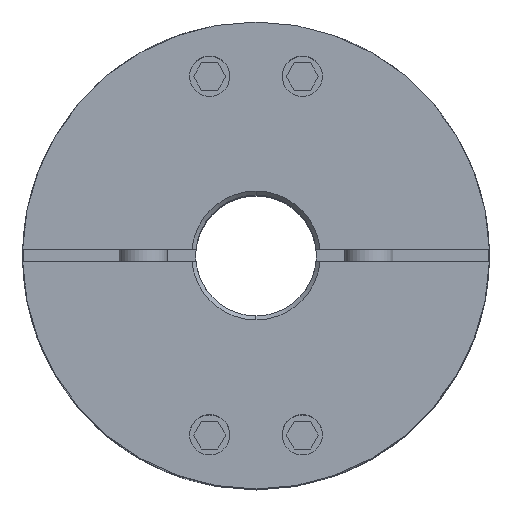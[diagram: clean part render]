
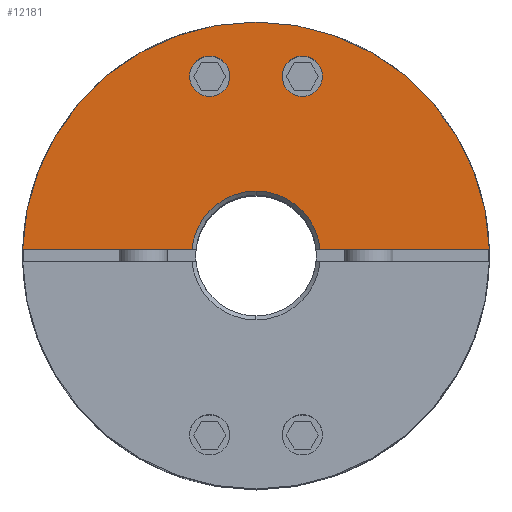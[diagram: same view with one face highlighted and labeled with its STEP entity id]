
A CAD part, top view. The second image highlights one B-rep face of the part: STEP entity #12181.
In plain terms, the highlighted planar face has unit normal (0, 0, 1).
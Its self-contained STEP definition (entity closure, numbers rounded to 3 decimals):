
#4737=CARTESIAN_POINT('',(5.759,24.767,35.75));
#4738=VERTEX_POINT('',#4737);
#4747=CARTESIAN_POINT('',(5.759,19.767,35.75));
#4748=VERTEX_POINT('',#4747);
#4749=CARTESIAN_POINT('',(5.759,22.267,35.75));
#4750=DIRECTION('',(0.0,0.0,-1.0));
#4751=DIRECTION('',(0.0,1.0,0.0));
#4752=AXIS2_PLACEMENT_3D('',#4749,#4750,#4751);
#4753=CIRCLE('',#4752,2.5);
#4754=EDGE_CURVE('',#4748,#4738,#4753,.T.);
#4779=CARTESIAN_POINT('',(-5.759,24.767,35.75));
#4780=VERTEX_POINT('',#4779);
#4789=CARTESIAN_POINT('',(-5.759,19.767,35.75));
#4790=VERTEX_POINT('',#4789);
#4791=CARTESIAN_POINT('',(-5.759,22.267,35.75));
#4792=DIRECTION('',(0.0,0.0,-1.0));
#4793=DIRECTION('',(0.0,1.0,0.0));
#4794=AXIS2_PLACEMENT_3D('',#4791,#4792,#4793);
#4795=CIRCLE('',#4794,2.5);
#4796=EDGE_CURVE('',#4790,#4780,#4795,.T.);
#5033=CARTESIAN_POINT('',(0.,29.0,35.75));
#5034=VERTEX_POINT('',#5033);
#5182=CARTESIAN_POINT('',(-28.99,0.75,35.75));
#5183=VERTEX_POINT('',#5182);
#5190=CARTESIAN_POINT('',(0.,0.0,35.75));
#5191=DIRECTION('',(0.0,0.0,-1.0));
#5192=DIRECTION('',(0.0,1.0,0.0));
#5193=AXIS2_PLACEMENT_3D('',#5190,#5191,#5192);
#5194=CIRCLE('',#5193,29.0);
#5195=EDGE_CURVE('',#5183,#5034,#5194,.T.);
#5367=CARTESIAN_POINT('',(0.,8.0,35.75));
#5368=VERTEX_POINT('',#5367);
#5384=CARTESIAN_POINT('',(7.965,0.75,35.75));
#5385=VERTEX_POINT('',#5384);
#5399=CARTESIAN_POINT('',(0.,0.0,35.75));
#5400=DIRECTION('',(0.0,0.0,1.0));
#5401=DIRECTION('',(0.0,1.0,0.0));
#5402=AXIS2_PLACEMENT_3D('',#5399,#5400,#5401);
#5403=CIRCLE('',#5402,8.0);
#5404=EDGE_CURVE('',#5385,#5368,#5403,.T.);
#11687=CARTESIAN_POINT('',(-7.965,0.75,35.75));
#11688=VERTEX_POINT('',#11687);
#11689=CARTESIAN_POINT('',(0.,0.0,35.75));
#11690=DIRECTION('',(0.0,0.0,1.0));
#11691=DIRECTION('',(0.0,1.0,0.0));
#11692=AXIS2_PLACEMENT_3D('',#11689,#11690,#11691);
#11693=CIRCLE('',#11692,8.0);
#11694=EDGE_CURVE('',#5368,#11688,#11693,.T.);
#11719=CARTESIAN_POINT('',(-28.99,0.75,35.75));
#11720=DIRECTION('',(1.0,0.0,0.0));
#11721=VECTOR('',#11720,21.026);
#11722=LINE('',#11719,#11721);
#11723=EDGE_CURVE('',#5183,#11688,#11722,.T.);
#11755=CARTESIAN_POINT('',(28.99,0.75,35.75));
#11756=VERTEX_POINT('',#11755);
#11763=CARTESIAN_POINT('',(7.965,0.75,35.75));
#11764=DIRECTION('',(1.0,0.0,0.0));
#11765=VECTOR('',#11764,21.026);
#11766=LINE('',#11763,#11765);
#11767=EDGE_CURVE('',#5385,#11756,#11766,.T.);
#11882=CARTESIAN_POINT('',(0.,0.0,35.75));
#11883=DIRECTION('',(0.0,0.0,-1.0));
#11884=DIRECTION('',(0.0,1.0,0.0));
#11885=AXIS2_PLACEMENT_3D('',#11882,#11883,#11884);
#11886=CIRCLE('',#11885,29.0);
#11887=EDGE_CURVE('',#5034,#11756,#11886,.T.);
#12120=CARTESIAN_POINT('',(-5.759,22.267,35.75));
#12121=DIRECTION('',(0.0,0.0,-1.0));
#12122=DIRECTION('',(0.0,1.0,0.0));
#12123=AXIS2_PLACEMENT_3D('',#12120,#12121,#12122);
#12124=CIRCLE('',#12123,2.5);
#12125=EDGE_CURVE('',#4780,#4790,#12124,.T.);
#12138=CARTESIAN_POINT('',(5.759,22.267,35.75));
#12139=DIRECTION('',(0.0,0.0,-1.0));
#12140=DIRECTION('',(0.0,1.0,0.0));
#12141=AXIS2_PLACEMENT_3D('',#12138,#12139,#12140);
#12142=CIRCLE('',#12141,2.5);
#12143=EDGE_CURVE('',#4738,#4748,#12142,.T.);
#12160=CARTESIAN_POINT('',(0.,2.636,35.75));
#12161=DIRECTION('',(0.0,0.0,1.0));
#12162=DIRECTION('',(0.0,1.0,0.0));
#12163=AXIS2_PLACEMENT_3D('',#12160,#12161,#12162);
#12164=PLANE('',#12163);
#12165=ORIENTED_EDGE('',*,*,#5404,.F.);
#12166=ORIENTED_EDGE('',*,*,#11767,.T.);
#12167=ORIENTED_EDGE('',*,*,#11887,.F.);
#12168=ORIENTED_EDGE('',*,*,#5195,.F.);
#12169=ORIENTED_EDGE('',*,*,#11723,.T.);
#12170=ORIENTED_EDGE('',*,*,#11694,.F.);
#12171=EDGE_LOOP('',(#12165,#12166,#12167,#12168,#12169,#12170));
#12172=FACE_OUTER_BOUND('',#12171,.T.);
#12173=ORIENTED_EDGE('',*,*,#12125,.T.);
#12174=ORIENTED_EDGE('',*,*,#4796,.T.);
#12175=EDGE_LOOP('',(#12173,#12174));
#12176=FACE_BOUND('',#12175,.T.);
#12177=ORIENTED_EDGE('',*,*,#12143,.T.);
#12178=ORIENTED_EDGE('',*,*,#4754,.T.);
#12179=EDGE_LOOP('',(#12177,#12178));
#12180=FACE_BOUND('',#12179,.T.);
#12181=ADVANCED_FACE('',(#12172,#12176,#12180),#12164,.T.);
